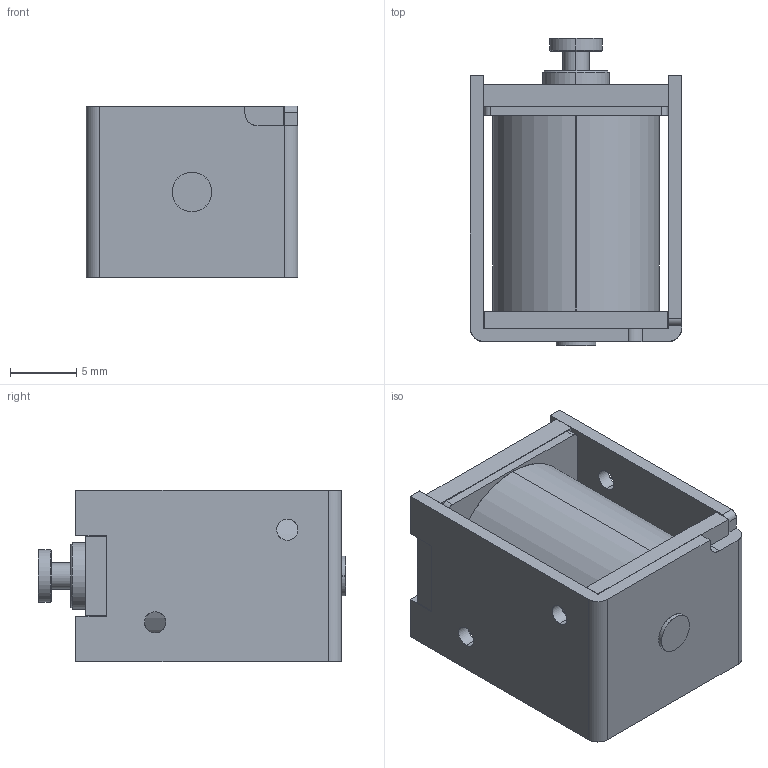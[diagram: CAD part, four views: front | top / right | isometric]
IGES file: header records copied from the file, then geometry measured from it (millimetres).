
Start section: SolidWorks IGES file using analytic representation for surfaces
Global section: file name: L:\カタログ\web用3Dデータ\CA0520\3D_CA0520\w_ca0520.IGS; native system: SolidWorks 2014; preprocessor: SolidWorks 2014; author: jiba; date: 140707.132920; units: millimetre
Bounding box: 16 x 23.23 x 13 mm (x, y, z)
Surface area: 2897 mm2 (no closed solid volume)
Topology: 0 solids, 0 shells, 105 faces, 1288 edges, 1288 vertices
Faces by surface type: bspline 57, revolution 48
